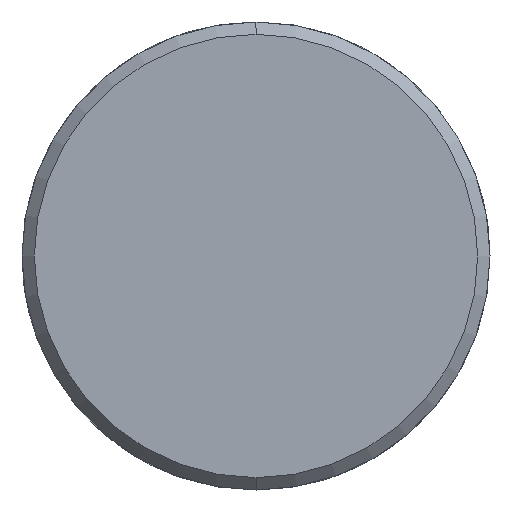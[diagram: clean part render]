
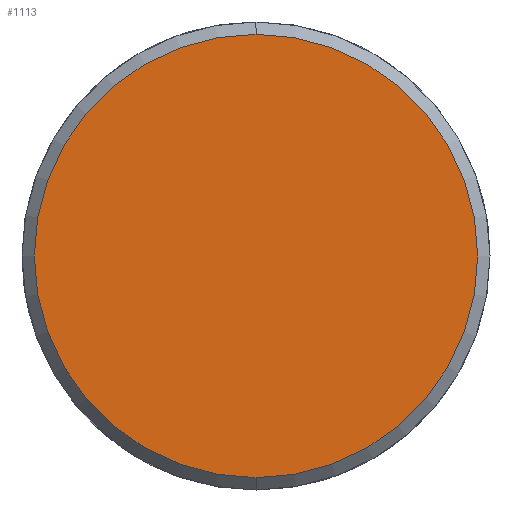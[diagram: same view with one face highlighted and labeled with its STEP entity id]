
A CAD part, left-side view. The second image highlights one B-rep face of the part: STEP entity #1113.
In plain terms, the highlighted planar face has unit normal (-1, 0, 0).
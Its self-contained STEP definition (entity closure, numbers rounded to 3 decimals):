
#1045=CARTESIAN_POINT('Vertex',(-7.,0.,-18.)) ;
#1048=CARTESIAN_POINT('Axis2P3D Location',(-7.,0.,0.)) ;
#1052=CARTESIAN_POINT('Vertex',(-7.,18.,0.)) ;
#1055=CARTESIAN_POINT('Axis2P3D Location',(-7.,0.,0.)) ;
#1059=CARTESIAN_POINT('Vertex',(-7.,0.,18.)) ;
#1081=CARTESIAN_POINT('Axis2P3D Location',(-7.,0.,0.)) ;
#1085=CARTESIAN_POINT('Vertex',(-7.,-18.,0.)) ;
#1088=CARTESIAN_POINT('Axis2P3D Location',(-7.,0.,0.)) ;
#1102=CARTESIAN_POINT('Axis2P3D Location',(-7.,0.,0.)) ;
#1049=DIRECTION('Axis2P3D Direction',(1.,0.,-0.)) ;
#1056=DIRECTION('Axis2P3D Direction',(1.,0.,-0.)) ;
#1082=DIRECTION('Axis2P3D Direction',(1.,0.,-0.)) ;
#1089=DIRECTION('Axis2P3D Direction',(1.,0.,-0.)) ;
#1103=DIRECTION('Axis2P3D Direction',(1.,0.,-0.)) ;
#1104=DIRECTION('Axis2P3D XDirection',(-0.,0.,-1.)) ;
#1050=AXIS2_PLACEMENT_3D('Circle Axis2P3D',#1048,#1049,$) ;
#1057=AXIS2_PLACEMENT_3D('Circle Axis2P3D',#1055,#1056,$) ;
#1083=AXIS2_PLACEMENT_3D('Circle Axis2P3D',#1081,#1082,$) ;
#1090=AXIS2_PLACEMENT_3D('Circle Axis2P3D',#1088,#1089,$) ;
#1105=AXIS2_PLACEMENT_3D('Plane Axis2P3D',#1102,#1103,#1104) ;
#1108=ORIENTED_EDGE('',*,*,#1054,.F.) ;
#1109=ORIENTED_EDGE('',*,*,#1092,.F.) ;
#1110=ORIENTED_EDGE('',*,*,#1087,.F.) ;
#1111=ORIENTED_EDGE('',*,*,#1061,.F.) ;
#1113=ADVANCED_FACE('351-25X86X140',(#1112),#1106,.F.) ;
#1051=CIRCLE('generated circle',#1050,18.) ;
#1058=CIRCLE('generated circle',#1057,18.) ;
#1084=CIRCLE('generated circle',#1083,18.) ;
#1091=CIRCLE('generated circle',#1090,18.) ;
#1054=EDGE_CURVE('',#1046,#1053,#1051,.T.) ;
#1061=EDGE_CURVE('',#1053,#1060,#1058,.T.) ;
#1087=EDGE_CURVE('',#1060,#1086,#1084,.T.) ;
#1092=EDGE_CURVE('',#1086,#1046,#1091,.T.) ;
#1107=EDGE_LOOP('',(#1108,#1109,#1110,#1111)) ;
#1112=FACE_OUTER_BOUND('',#1107,.T.) ;
#1106=PLANE('Plane',#1105) ;
#1046=VERTEX_POINT('',#1045) ;
#1053=VERTEX_POINT('',#1052) ;
#1060=VERTEX_POINT('',#1059) ;
#1086=VERTEX_POINT('',#1085) ;
